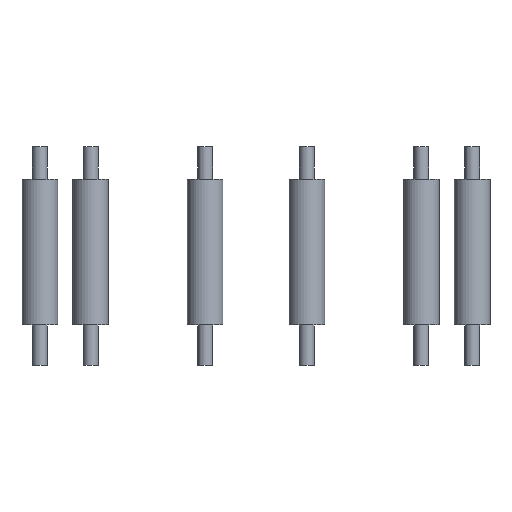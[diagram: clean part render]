
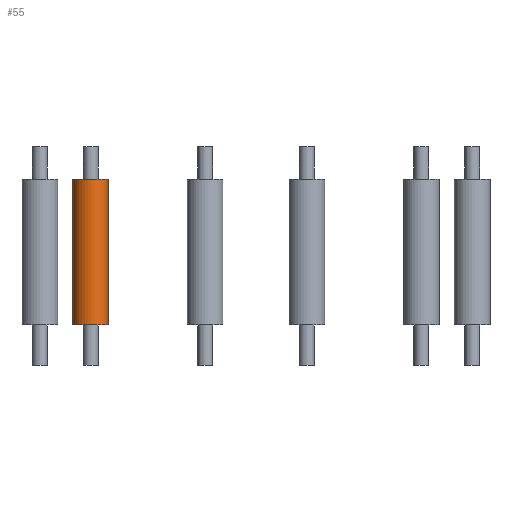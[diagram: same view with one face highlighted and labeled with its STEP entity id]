
A CAD part, left-side view. The second image highlights one B-rep face of the part: STEP entity #55.
In plain terms, the highlighted cylindrical face has radius 3 mm (diameter 6 mm), a full revolution.
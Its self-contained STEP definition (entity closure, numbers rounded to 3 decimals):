
#55 = ADVANCED_FACE('',(#56),#70,.T.);
#56 = FACE_BOUND('',#57,.F.);
#57 = EDGE_LOOP('',(#58,#88,#115,#116));
#58 = ORIENTED_EDGE('',*,*,#59,.T.);
#59 = EDGE_CURVE('',#60,#62,#64,.T.);
#60 = VERTEX_POINT('',#61);
#61 = CARTESIAN_POINT('',(28.916,27.791,54.5));
#62 = VERTEX_POINT('',#63);
#63 = CARTESIAN_POINT('',(28.916,27.791,79.));
#64 = SEAM_CURVE('',#65,(#69,#81),.PCURVE_S1.);
#65 = LINE('',#66,#67);
#66 = CARTESIAN_POINT('',(28.916,27.791,54.5));
#67 = VECTOR('',#68,1.);
#68 = DIRECTION('',(0.,0.,1.));
#69 = PCURVE('',#70,#75);
#70 = CYLINDRICAL_SURFACE('',#71,3.);
#71 = AXIS2_PLACEMENT_3D('',#72,#73,#74);
#72 = CARTESIAN_POINT('',(25.916,27.791,54.5));
#73 = DIRECTION('',(-0.,-0.,-1.));
#74 = DIRECTION('',(1.,0.,0.));
#75 = DEFINITIONAL_REPRESENTATION('',(#76),#80);
#76 = LINE('',#77,#78);
#77 = CARTESIAN_POINT('',(-0.,0.));
#78 = VECTOR('',#79,1.);
#79 = DIRECTION('',(-0.,-1.));
#80 = ( GEOMETRIC_REPRESENTATION_CONTEXT(2) 
PARAMETRIC_REPRESENTATION_CONTEXT() REPRESENTATION_CONTEXT('2D SPACE',''
  ) );
#81 = PCURVE('',#70,#82);
#82 = DEFINITIONAL_REPRESENTATION('',(#83),#87);
#83 = LINE('',#84,#85);
#84 = CARTESIAN_POINT('',(-6.283,0.));
#85 = VECTOR('',#86,1.);
#86 = DIRECTION('',(-0.,-1.));
#87 = ( GEOMETRIC_REPRESENTATION_CONTEXT(2) 
PARAMETRIC_REPRESENTATION_CONTEXT() REPRESENTATION_CONTEXT('2D SPACE',''
  ) );
#88 = ORIENTED_EDGE('',*,*,#89,.T.);
#89 = EDGE_CURVE('',#62,#62,#90,.T.);
#90 = SURFACE_CURVE('',#91,(#96,#103),.PCURVE_S1.);
#91 = CIRCLE('',#92,3.);
#92 = AXIS2_PLACEMENT_3D('',#93,#94,#95);
#93 = CARTESIAN_POINT('',(25.916,27.791,79.));
#94 = DIRECTION('',(0.,0.,1.));
#95 = DIRECTION('',(1.,0.,0.));
#96 = PCURVE('',#70,#97);
#97 = DEFINITIONAL_REPRESENTATION('',(#98),#102);
#98 = LINE('',#99,#100);
#99 = CARTESIAN_POINT('',(-0.,-24.5));
#100 = VECTOR('',#101,1.);
#101 = DIRECTION('',(-1.,0.));
#102 = ( GEOMETRIC_REPRESENTATION_CONTEXT(2) 
PARAMETRIC_REPRESENTATION_CONTEXT() REPRESENTATION_CONTEXT('2D SPACE',''
  ) );
#103 = PCURVE('',#104,#109);
#104 = PLANE('',#105);
#105 = AXIS2_PLACEMENT_3D('',#106,#107,#108);
#106 = CARTESIAN_POINT('',(25.916,27.791,79.));
#107 = DIRECTION('',(0.,0.,1.));
#108 = DIRECTION('',(1.,0.,-0.));
#109 = DEFINITIONAL_REPRESENTATION('',(#110),#114);
#110 = CIRCLE('',#111,3.);
#111 = AXIS2_PLACEMENT_2D('',#112,#113);
#112 = CARTESIAN_POINT('',(0.,0.));
#113 = DIRECTION('',(1.,0.));
#114 = ( GEOMETRIC_REPRESENTATION_CONTEXT(2) 
PARAMETRIC_REPRESENTATION_CONTEXT() REPRESENTATION_CONTEXT('2D SPACE',''
  ) );
#115 = ORIENTED_EDGE('',*,*,#59,.F.);
#116 = ORIENTED_EDGE('',*,*,#117,.F.);
#117 = EDGE_CURVE('',#60,#60,#118,.T.);
#118 = SURFACE_CURVE('',#119,(#124,#131),.PCURVE_S1.);
#119 = CIRCLE('',#120,3.);
#120 = AXIS2_PLACEMENT_3D('',#121,#122,#123);
#121 = CARTESIAN_POINT('',(25.916,27.791,54.5));
#122 = DIRECTION('',(0.,0.,1.));
#123 = DIRECTION('',(1.,0.,0.));
#124 = PCURVE('',#70,#125);
#125 = DEFINITIONAL_REPRESENTATION('',(#126),#130);
#126 = LINE('',#127,#128);
#127 = CARTESIAN_POINT('',(-0.,0.));
#128 = VECTOR('',#129,1.);
#129 = DIRECTION('',(-1.,0.));
#130 = ( GEOMETRIC_REPRESENTATION_CONTEXT(2) 
PARAMETRIC_REPRESENTATION_CONTEXT() REPRESENTATION_CONTEXT('2D SPACE',''
  ) );
#131 = PCURVE('',#132,#137);
#132 = PLANE('',#133);
#133 = AXIS2_PLACEMENT_3D('',#134,#135,#136);
#134 = CARTESIAN_POINT('',(25.916,27.791,54.5));
#135 = DIRECTION('',(0.,0.,1.));
#136 = DIRECTION('',(1.,0.,-0.));
#137 = DEFINITIONAL_REPRESENTATION('',(#138),#142);
#138 = CIRCLE('',#139,3.);
#139 = AXIS2_PLACEMENT_2D('',#140,#141);
#140 = CARTESIAN_POINT('',(0.,0.));
#141 = DIRECTION('',(1.,0.));
#142 = ( GEOMETRIC_REPRESENTATION_CONTEXT(2) 
PARAMETRIC_REPRESENTATION_CONTEXT() REPRESENTATION_CONTEXT('2D SPACE',''
  ) );
